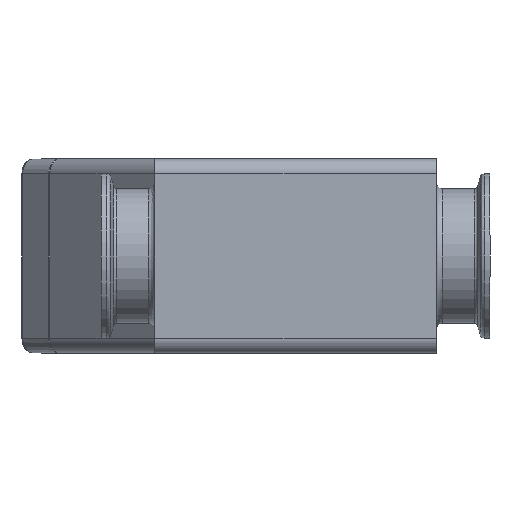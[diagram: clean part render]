
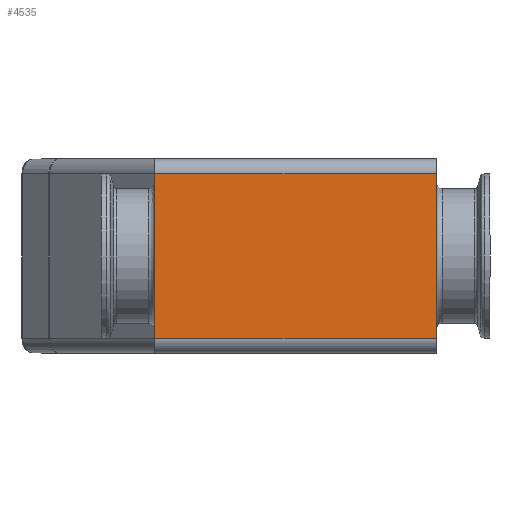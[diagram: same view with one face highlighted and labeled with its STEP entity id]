
A CAD part, front view. The second image highlights one B-rep face of the part: STEP entity #4535.
In plain terms, the highlighted planar face has unit normal (0, -1, 0).
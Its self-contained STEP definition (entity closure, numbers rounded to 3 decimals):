
#1589=LINE('',#15888,#2323);
#1590=LINE('',#15890,#2324);
#1591=LINE('',#15893,#2325);
#1592=LINE('',#15894,#2326);
#2323=VECTOR('',#12697,1.);
#2324=VECTOR('',#12700,1.);
#2325=VECTOR('',#12701,1.);
#2326=VECTOR('',#12702,1.);
#4535=ADVANCED_FACE('',(#5245),#4963,.T.);
#4963=PLANE('',#11400);
#5245=FACE_OUTER_BOUND('',#5873,.T.);
#5873=EDGE_LOOP('',(#6808,#6809,#6810,#6811));
#6808=ORIENTED_EDGE('',*,*,#9767,.T.);
#6809=ORIENTED_EDGE('',*,*,#9768,.F.);
#6810=ORIENTED_EDGE('',*,*,#9766,.T.);
#6811=ORIENTED_EDGE('',*,*,#9769,.T.);
#8886=VERTEX_POINT('',#15883);
#8888=VERTEX_POINT('',#15887);
#8889=VERTEX_POINT('',#15891);
#8890=VERTEX_POINT('',#15892);
#9766=EDGE_CURVE('',#8886,#8888,#1589,.T.);
#9767=EDGE_CURVE('',#8889,#8890,#1590,.T.);
#9768=EDGE_CURVE('',#8886,#8890,#1591,.T.);
#9769=EDGE_CURVE('',#8888,#8889,#1592,.T.);
#11400=AXIS2_PLACEMENT_3D('',#15895,#12703,#12704);
#12697=DIRECTION('',(1.,0.,0.));
#12700=DIRECTION('',(-1.,0.,0.));
#12701=DIRECTION('',(0.,0.,1.));
#12702=DIRECTION('',(0.,0.,1.));
#12703=DIRECTION('',(0.,-1.,0.));
#12704=DIRECTION('',(1.,0.,0.));
#15883=CARTESIAN_POINT('',(0.,0.,5.));
#15887=CARTESIAN_POINT('',(94.,0.,5.));
#15888=CARTESIAN_POINT('',(0.,0.,5.));
#15890=CARTESIAN_POINT('',(94.,0.,60.));
#15891=CARTESIAN_POINT('',(94.,0.,60.));
#15892=CARTESIAN_POINT('',(0.,0.,60.));
#15893=CARTESIAN_POINT('',(0.,0.,5.));
#15894=CARTESIAN_POINT('',(94.,0.,5.));
#15895=CARTESIAN_POINT('',(0.,0.,0.));
